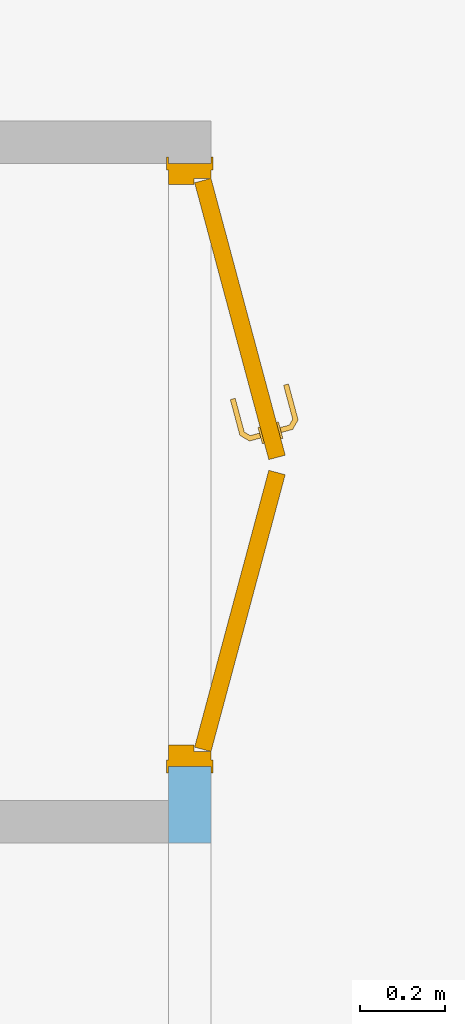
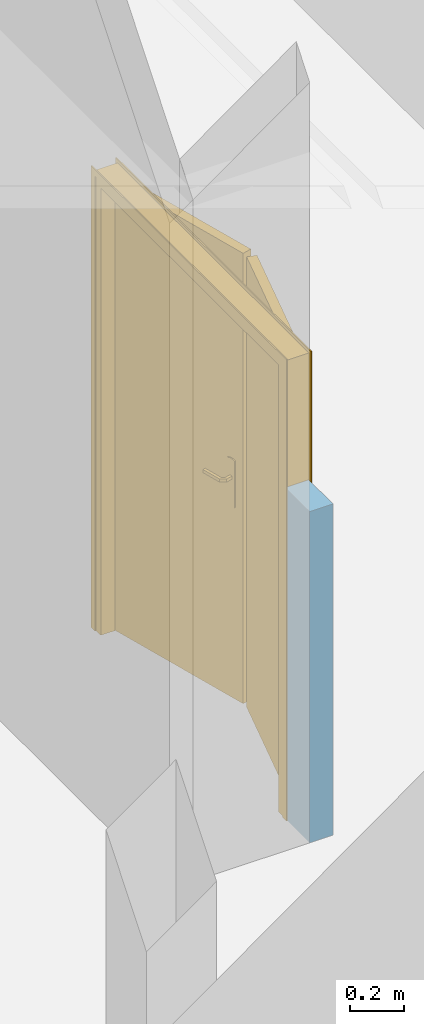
# One storey, part 217 of 240: 1 door, 1 opening, plus 1 element that does not belong to this part.
"""IFC2X3 building model written with IfcOpenShell, lengths in centimetres."""

from ifc_helpers import new_model, entity, si_unit, converted_unit, derived_unit, direction, frame, frame_2d, origin, place, context, subcontext, project, spatial, rectangle, extrude, faceted_brep, source, transform, mapped, material, material_list, layer, layer_set, layer_usage, type_object, type_shapes, element, fill, save


model = new_model("IFC2X3")

# Units and contexts
model_context = context("Model", 3, precision=0.001, world=origin(), true_north=direction((6.12303176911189e-17, 1.0)))
body_context = subcontext(model_context, "Body", "Model", "MODEL_VIEW")
ifc_project = project(units=[si_unit("LENGTHUNIT", "METRE", prefix="CENTI"), si_unit("AREAUNIT", "SQUARE_METRE"), si_unit("VOLUMEUNIT", "CUBIC_METRE"), converted_unit("PLANEANGLEUNIT", "DEGREE", entity("IfcRatioMeasure", 0.0174532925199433), si_unit("PLANEANGLEUNIT", "RADIAN"), dimensions=[0, 0, 0, 0, 0, 0, 0]), si_unit("MASSUNIT", "GRAM", prefix="KILO"), derived_unit("MASSDENSITYUNIT", [(si_unit("MASSUNIT", "GRAM", prefix="KILO"), 1), (si_unit("LENGTHUNIT", "METRE"), -3)]), si_unit("TIMEUNIT", "SECOND"), si_unit("FREQUENCYUNIT", "HERTZ"), si_unit("THERMODYNAMICTEMPERATUREUNIT", "DEGREE_CELSIUS"), derived_unit("THERMALTRANSMITTANCEUNIT", [(si_unit("MASSUNIT", "GRAM", prefix="KILO"), 1), (si_unit("THERMODYNAMICTEMPERATUREUNIT", "KELVIN"), -1), (si_unit("TIMEUNIT", "SECOND"), -3)]), derived_unit("VOLUMETRICFLOWRATEUNIT", [(si_unit("LENGTHUNIT", "METRE"), 3), (si_unit("TIMEUNIT", "SECOND"), -1)]), si_unit("ELECTRICCURRENTUNIT", "AMPERE"), si_unit("ELECTRICVOLTAGEUNIT", "VOLT"), si_unit("POWERUNIT", "WATT"), si_unit("FORCEUNIT", "NEWTON", prefix="KILO"), si_unit("ILLUMINANCEUNIT", "LUX"), si_unit("LUMINOUSFLUXUNIT", "LUMEN"), si_unit("LUMINOUSINTENSITYUNIT", "CANDELA"), derived_unit("USERDEFINED", [(si_unit("MASSUNIT", "GRAM", prefix="KILO"), -1), (si_unit("LENGTHUNIT", "METRE"), -2), (si_unit("TIMEUNIT", "SECOND"), 3), (si_unit("LUMINOUSFLUXUNIT", "LUMEN"), 1)]), derived_unit("LINEARVELOCITYUNIT", [(si_unit("LENGTHUNIT", "METRE"), 1), (si_unit("TIMEUNIT", "SECOND"), -1)]), si_unit("PRESSUREUNIT", "PASCAL"), derived_unit("USERDEFINED", [(si_unit("LENGTHUNIT", "METRE"), -2), (si_unit("MASSUNIT", "GRAM", prefix="KILO"), 1), (si_unit("TIMEUNIT", "SECOND"), -2)])], contexts=[model_context])

# Site, building, storey
site_placement = place(None, frame((-2781.94577612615, 7442.24238424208, 0.0)))
site = spatial("IfcSite", under=ifc_project, at=site_placement, Name="Default", CompositionType="ELEMENT")
building_placement = place(site_placement, origin())
building = spatial("IfcBuilding", under=site, at=building_placement, CompositionType="ELEMENT")
storey_placement = place(building_placement, origin())
storey = spatial("IfcBuildingStorey", under=building, at=storey_placement, Name="N00 - COO", CompositionType="ELEMENT", Elevation=0.0)

# Wall, opening, door
ifc_material_1 = material(Name="01 - Enduit/Plâtre")
ifc_layer_1 = layer(ifc_material_1, 1.3)
ifc_material_2 = material(Name="00 - Isolant")
ifc_layer_2 = layer(ifc_material_2, 7.4)
ifc_layer_3 = layer(ifc_material_1, 1.3)
ifc_layer_set = layer_set([ifc_layer_1, ifc_layer_2, ifc_layer_3], Name="Mur de base:06 - cloisons - Ba13 10cm")
ifc_layer_usage = layer_usage(ifc_layer_set, "AXIS2", "NEGATIVE", 5.0)
wall_type = type_object("IfcWallType", Name="Mur de base:06 - cloisons - Ba13 10cm", PredefinedType="STANDARD", material=ifc_layer_set)
wall_placement = place(building_placement, frame((-5054.49987760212, -1782.07903364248, 0.0), z_axis=(0.0, 0.0, 1.0), x_axis=(0.0, -1.0, 0.0)))
wall = element("IfcWallStandardCase", 1, at=wall_placement, inside=storey, type_object=wall_type, material=ifc_layer_usage, Name="Mur de base:06 - cloisons - Ba13 10cm", ObjectType="Mur de base:06 - cloisons - Ba13 10cm", context=body_context, shape_type="SweptSolid", body=[
    extrude(rectangle(XDim=18.0, YDim=10.0000000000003, at=frame_2d((-0.200000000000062, -1.00000000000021), x_axis=(1.0, 0.0))), frame((8.79999999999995, -1.0, 0.0), z_axis=(0.0, 0.0, 1.0), x_axis=(-1.0, 0.0, 0.0)), (0.0, 0.0, 1.0), 150.0),
])
opening_placement = place(wall_placement, frame((-142.0, -5.0, 0.0)))
opening = element("IfcOpeningElement", 2, at=opening_placement, cuts=wall, Name="Int. Double:PP Placard (1.35m x 2.04m):1", ObjectType="Opening", context=body_context, shape_type="SweptSolid", body=[
    extrude(rectangle(XDim=207.500000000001, YDim=142.0, at=frame_2d((103.750000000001, 71.0000000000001), x_axis=(1.0, 0.0))), frame((0.0, 0.0, 0.0), z_axis=(0.0, 1.0, 0.0), x_axis=(0.0, 0.0, 1.0)), (0.0, 0.0, 1.0), 10.0),
])
ifc_material_3 = material(Name="Bois - Panneau de porte")
ifc_material_4 = material(Name="Finition Peinture - Blanc satiné")
ifc_material_5 = material(Name="Bois - Cadre de porte")
ifc_material_list_1 = material_list([ifc_material_3, ifc_material_4, ifc_material_5])
ifc_material_list_2 = material_list([ifc_material_3, ifc_material_4, ifc_material_5])
door_style = type_object("IfcDoorStyle", Name="PP Placard (1.35m x 2.04m)", ConstructionType="NOTDEFINED", OperationType="DOUBLE_DOOR_SINGLE_SWING", ParameterTakesPrecedence=False, Sizeable=False, material=ifc_material_list_2)
shared_shape = source(origin(), body_context, "Body", "Brep", [
    faceted_brep([(69.7352694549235, -13.6065822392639, 204.0), (69.7352694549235, -13.6065822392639, 0.0), (4.53527618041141, 3.86370330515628, 0.0), (4.5352761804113, 3.86370330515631, 204.0), (68.6999932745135, -17.4702855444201, 204.0), (3.50000000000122, 0.0, 204.0), (3.50000000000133, 0.0, 0.0), (68.6999932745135, -17.4702855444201, 0.0)], [[[0, 1, 2, 3]], [[4, 5, 6, 7]], [[3, 5, 4, 0]], [[2, 6, 5, 3]], [[1, 7, 6, 2]], [[0, 4, 7, 1]]]),
    faceted_brep([(80.2249712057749, -16.1323849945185, 86.6003983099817), (81.1568228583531, -15.8826960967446, 87.0), (81.156822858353, -15.8826960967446, 108.0), (80.2249712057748, -16.1323849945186, 108.399601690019), (79.2249712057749, -16.4003341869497, 108.535898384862), (78.2249712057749, -16.6682833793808, 108.399601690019), (77.2931195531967, -16.9179722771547, 108.0), (77.2931195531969, -16.9179722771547, 87.0), (78.224971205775, -16.6682833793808, 86.6003983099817), (79.224971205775, -16.4003341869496, 86.464101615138), (80.0955616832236, -15.649422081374, 108.399601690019), (81.0274133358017, -15.3997331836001, 108.0), (81.0274133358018, -15.3997331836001, 87.0), (80.0955616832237, -15.649422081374, 86.6003983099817), (79.0955616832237, -15.9173712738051, 86.464101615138), (78.0955616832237, -16.1853204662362, 86.6003983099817), (77.1637100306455, -16.4350093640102, 87.0), (77.1637100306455, -16.4350093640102, 108.0), (78.0955616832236, -16.1853204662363, 108.399601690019), (79.0955616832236, -15.9173712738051, 108.535898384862)], [[[0, 1, 2, 3, 4, 5, 6, 7, 8, 9]], [[10, 11, 12, 13, 14, 15, 16, 17, 18, 19]], [[16, 15, 8, 7]], [[8, 15, 14, 9]], [[14, 13, 0, 9]], [[13, 12, 1, 0]], [[2, 1, 12, 11]], [[11, 10, 3, 2]], [[3, 10, 19, 4]], [[19, 18, 5, 4]], [[18, 17, 6, 5]], [[7, 6, 17, 16]]]),
    faceted_brep([(79.0602855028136, -11.7857187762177, 86.6003983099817), (79.9921371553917, -11.5360298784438, 87.0), (79.9921371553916, -11.5360298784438, 108.0), (79.0602855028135, -11.7857187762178, 108.399601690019), (78.0602855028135, -12.0536679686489, 108.535898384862), (77.0602855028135, -12.32161716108, 108.399601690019), (76.1284338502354, -12.5713060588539, 108.0), (76.1284338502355, -12.5713060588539, 87.0), (77.0602855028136, -12.32161716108, 86.6003983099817), (78.0602855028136, -12.0536679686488, 86.464101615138), (78.9308759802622, -11.3027558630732, 108.399601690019), (79.8627276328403, -11.0530669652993, 108.0), (79.8627276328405, -11.0530669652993, 87.0), (78.9308759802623, -11.3027558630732, 86.6003983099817), (77.9308759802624, -11.5707050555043, 86.464101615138), (76.9308759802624, -11.8386542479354, 86.6003983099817), (75.9990243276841, -12.0883431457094, 87.0), (75.9990243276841, -12.0883431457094, 108.0), (76.9308759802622, -11.8386542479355, 108.399601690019), (77.9308759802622, -11.5707050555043, 108.535898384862)], [[[0, 1, 2, 3, 4, 5, 6, 7, 8, 9]], [[10, 11, 12, 13, 14, 15, 16, 17, 18, 19]], [[11, 10, 3, 2]], [[3, 10, 19, 4]], [[19, 18, 5, 4]], [[18, 17, 6, 5]], [[7, 6, 17, 16]], [[16, 15, 8, 7]], [[8, 15, 14, 9]], [[14, 13, 0, 9]], [[13, 12, 1, 0]], [[2, 1, 12, 11]]]),
    faceted_brep([(79.0293423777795, -16.4527527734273, 100.778044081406), (79.4206000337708, -16.3479156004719, 100.778044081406), (79.804526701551, -16.2450427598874, 100.699999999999), (79.8045267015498, -16.2450427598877, 99.3000000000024), (79.42060003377, -16.3479156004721, 99.2219559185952), (79.0293423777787, -16.4527527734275, 99.221955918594), (78.6454157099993, -16.5556256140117, 99.2999999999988), (78.6454157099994, -16.5556256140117, 100.7), (79.3610749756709, -19.2265023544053, 100.7), (79.702390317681, -18.9646018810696, 100.778044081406), (81.6679691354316, -20.0994293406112, 100.778044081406), (81.7251961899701, -19.6647467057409, 100.778044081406), (80.0502229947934, -18.6977004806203, 100.778044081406), (80.3915383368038, -18.4358000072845, 100.7), (80.3915383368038, -18.435800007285, 99.3000000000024), (80.0502229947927, -18.6977004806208, 99.2219559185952), (81.72519618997, -19.6647467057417, 99.2219559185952), (81.6679691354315, -20.0994293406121, 99.221955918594), (79.7023903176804, -18.9646018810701, 99.221955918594), (79.3610749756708, -19.2265023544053, 99.2999999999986), (81.6118143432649, -20.5259673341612, 100.7), (81.781350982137, -19.2382087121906, 100.7), (81.7813509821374, -19.238208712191, 99.3000000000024), (81.6118143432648, -20.5259673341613, 99.2999999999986), (90.0773264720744, -18.2576401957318, 99.2999999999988), (89.9744536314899, -17.8737135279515, 99.221955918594), (89.8696164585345, -17.4824558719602, 99.2219559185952), (89.7667436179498, -17.0985292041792, 99.3000000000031), (89.7667436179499, -17.0985292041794, 100.7), (89.8696164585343, -17.4824558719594, 100.778044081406), (89.9744536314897, -17.8737135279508, 100.778044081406), (90.0773264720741, -18.2576401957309, 100.699999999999), (85.4688032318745, -19.4924902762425, 100.7), (85.8498249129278, -18.7692301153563, 100.78786867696), (85.7740473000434, -18.168368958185, 100.7), (85.7740473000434, -18.1683689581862, 99.3000000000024), (85.8498248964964, -18.7692301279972, 99.2121313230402), (85.4688035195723, -19.4924901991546, 99.2999999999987)], [[[0, 1, 2, 3, 4, 5, 6, 7]], [[8, 9, 0, 7]], [[9, 10, 11, 12, 1, 0]], [[12, 13, 2, 1]], [[3, 2, 13, 14]], [[14, 15, 4, 3]], [[15, 16, 17, 18, 5, 4]], [[18, 19, 6, 5]], [[7, 6, 19, 8]], [[20, 10, 9, 8]], [[11, 21, 13, 12]], [[14, 13, 21, 22]], [[22, 16, 15, 14]], [[17, 23, 19, 18]], [[8, 19, 23, 20]], [[24, 25, 26, 27, 28, 29, 30, 31]], [[32, 30, 33]], [[31, 30, 32]], [[10, 20, 32]], [[33, 34, 11]], [[21, 11, 34]], [[34, 29, 28]], [[30, 29, 33]], [[29, 34, 33]], [[10, 32, 33]], [[10, 33, 11]], [[22, 21, 34, 28, 27, 35]], [[35, 26, 36]], [[37, 36, 25]], [[22, 35, 16]], [[35, 27, 26]], [[24, 37, 25]], [[23, 17, 37]], [[37, 17, 36]], [[17, 16, 36]], [[16, 35, 36]], [[25, 36, 26]], [[20, 23, 37, 24, 31, 32]]]),
    faceted_brep([(77.7352471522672, -11.6231236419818, 100.778044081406), (77.351320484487, -11.7259964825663, 100.7), (77.3513204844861, -11.7259964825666, 99.2999999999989), (77.7352471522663, -11.6231236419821, 99.221955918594), (78.1265048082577, -11.5182864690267, 99.2219559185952), (78.5104314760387, -11.415413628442, 99.3000000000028), (78.5104314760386, -11.415413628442, 100.7), (78.1265048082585, -11.5182864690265, 100.778044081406), (77.928471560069, -9.24350965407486, 99.3000000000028), (77.928471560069, -9.24350965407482, 100.7), (77.501933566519, -9.18735486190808, 100.778044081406), (78.4787031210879, -7.4955403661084, 100.778044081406), (78.2118017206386, -7.14770768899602, 100.778044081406), (77.0672509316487, -9.13012780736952, 100.778044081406), (76.6407129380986, -9.07397301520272, 100.7), (76.6407129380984, -9.07397301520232, 99.2999999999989), (77.0672509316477, -9.13012780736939, 99.221955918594), (78.211801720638, -7.14770768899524, 99.221955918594), (78.4787031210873, -7.49554036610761, 99.2219559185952), (77.501933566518, -9.18735486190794, 99.2219559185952), (78.7406035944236, -7.8368557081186, 99.3000000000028), (78.7406035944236, -7.83685570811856, 100.7), (77.9499012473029, -6.80639234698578, 100.7), (77.9499012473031, -6.80639234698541, 99.2999999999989), (86.7153357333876, -5.70003267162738, 99.3000000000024), (86.6124628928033, -5.31610600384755, 99.2219559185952), (86.5076257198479, -4.92484834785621, 99.221955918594), (86.4047528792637, -4.54092168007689, 99.2999999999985), (86.4047528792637, -4.540921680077, 100.7), (86.5076257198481, -4.92484834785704, 100.778044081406), (86.6124628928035, -5.31610600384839, 100.778044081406), (86.715335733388, -5.70003267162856, 100.7), (82.7279685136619, -6.76844449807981, 99.3000000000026), (82.7279696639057, -6.76844418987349, 100.7), (82.4931644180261, -6.21019435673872, 100.78786867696), (81.8068901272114, -5.77291529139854, 100.7), (81.8068899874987, -5.77291532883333, 99.2999999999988), (82.493164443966, -6.21019435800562, 99.2121313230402)], [[[0, 1, 2, 3, 4, 5, 6, 7]], [[6, 5, 8, 9]], [[9, 10, 7, 6]], [[10, 11, 12, 13, 0, 7]], [[13, 14, 1, 0]], [[2, 1, 14, 15]], [[15, 16, 3, 2]], [[16, 17, 18, 19, 4, 3]], [[19, 8, 5, 4]], [[9, 8, 20, 21]], [[21, 11, 10, 9]], [[12, 22, 14, 13]], [[15, 14, 22, 23]], [[23, 17, 16, 15]], [[18, 20, 8, 19]], [[24, 25, 26, 27, 28, 29, 30, 31]], [[21, 20, 32, 24, 31, 33]], [[33, 30, 34]], [[35, 34, 29]], [[21, 33, 11]], [[33, 31, 30]], [[28, 35, 29]], [[22, 12, 35]], [[35, 12, 34]], [[12, 11, 34]], [[11, 33, 34]], [[29, 34, 30]], [[22, 35, 28, 27, 36, 23]], [[36, 26, 37]], [[27, 26, 36]], [[17, 23, 36]], [[37, 32, 18]], [[20, 18, 32]], [[32, 25, 24]], [[26, 25, 37]], [[25, 32, 37]], [[17, 36, 37]], [[17, 37, 18]]]),
    faceted_brep([(72.2647305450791, -13.6065822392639, 204.0), (137.464723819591, 3.86370330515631, 204.0), (137.464723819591, 3.86370330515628, 0.0), (72.2647305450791, -13.6065822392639, 0.0), (73.3000067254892, -17.4702855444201, 204.0), (73.3000067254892, -17.4702855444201, 0.0), (138.500000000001, 0.0, 0.0), (138.500000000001, 0.0, 204.0)], [[[0, 1, 2, 3]], [[4, 5, 6, 7]], [[1, 0, 4, 7]], [[2, 1, 7, 6]], [[3, 2, 6, 5]], [[0, 3, 5, 4]]]),
    faceted_brep([(0.0, 0.0, 0.0), (0.0, 10.0, 0.0), (5.0, 10.0, 0.0), (5.0, 4.0, 0.0), (3.50000000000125, 4.0, 0.0), (3.50000000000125, 0.0, 0.0), (0.0, 0.0, 207.500000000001), (0.0, 10.0, 207.500000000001), (142.0, 10.0, 207.500000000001), (142.0, 10.0, 0.0), (137.0, 10.0, 0.0), (137.0, 10.0, 202.5), (5.0, 10.0, 202.5), (5.0, 4.0, 202.5), (137.0, 4.0, 202.5), (137.0, 4.0, 0.0), (138.499999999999, 4.0, 0.0), (138.499999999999, 4.0, 204.0), (3.50000000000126, 4.0, 204.0), (3.50000000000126, 0.0, 204.0), (138.499999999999, 0.0, 204.0), (138.499999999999, 0.0, 0.0), (142.0, 0.0, 0.0), (142.0, 0.0, 207.500000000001)], [[[0, 1, 2, 3, 4, 5]], [[1, 0, 6, 7]], [[2, 1, 7, 8, 9, 10, 11, 12]], [[3, 2, 12, 13]], [[4, 3, 13, 14, 15, 16, 17, 18]], [[5, 4, 18, 19]], [[0, 5, 19, 20, 21, 22, 23, 6]], [[8, 23, 22, 9]], [[22, 21, 16, 15, 10, 9]], [[14, 11, 10, 15]], [[20, 17, 16, 21]], [[7, 6, 23, 8]], [[13, 12, 11, 14]], [[19, 18, 17, 20]]]),
    faceted_brep([(1.49999999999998, 10.0, 0.0), (-1.50000000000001, 10.0, 0.0), (-1.50000000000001, 10.5000000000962, 0.0), (1.49999999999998, 10.5000000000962, 0.0), (1.49999999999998, 10.0, 206.0), (140.5, 10.0, 206.0), (140.5, 10.0, 0.0), (143.5, 10.0, 0.0), (143.5, 10.0, 209.0), (-1.50000000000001, 10.0, 209.0), (-1.50000000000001, 10.5000000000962, 209.0), (143.5, 10.5000000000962, 209.0), (143.5, 10.5000000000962, 0.0), (140.5, 10.5000000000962, 0.0), (140.5, 10.5000000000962, 206.0), (1.5, 10.5000000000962, 206.0)], [[[0, 1, 2, 3]], [[1, 0, 4, 5, 6, 7, 8, 9]], [[2, 1, 9, 10]], [[3, 2, 10, 11, 12, 13, 14, 15]], [[0, 3, 15, 4]], [[5, 14, 13, 6]], [[6, 13, 12, 7]], [[11, 8, 7, 12]], [[10, 9, 8, 11]], [[4, 15, 14, 5]]]),
    faceted_brep([(-1.50000000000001, -0.500000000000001, 0.0), (1.49999999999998, -0.500000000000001, 0.0), (1.49999999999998, -0.500000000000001, 206.0), (140.5, -0.500000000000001, 206.0), (140.5, -0.500000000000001, 0.0), (143.5, -0.500000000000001, 0.0), (143.5, -0.500000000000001, 209.0), (-1.50000000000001, -0.500000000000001, 209.0), (-1.50000000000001, 0.0, 0.0), (-1.50000000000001, 0.0, 209.0), (1.49999999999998, 0.0, 0.0), (143.5, 0.0, 209.0), (143.5, 0.0, 0.0), (140.5, 0.0, 0.0), (140.5, 0.0, 206.0), (1.5, 0.0, 206.0)], [[[0, 1, 2, 3, 4, 5, 6, 7]], [[8, 0, 7, 9]], [[10, 8, 9, 11, 12, 13, 14, 15]], [[1, 10, 15, 2]], [[3, 14, 13, 4]], [[11, 6, 5, 12]], [[9, 7, 6, 11]], [[2, 15, 14, 3]], [[4, 13, 12, 5]], [[1, 0, 8, 10]]]),
])
type_shapes(door_style, [shared_shape])
door_placement = place(opening_placement, frame((142.0, 10.0, 0.0), z_axis=(0.0, 0.0, 1.0), x_axis=(-1.0, 0.0, 0.0)))
door = element("IfcDoor", 3, at=door_placement, inside=storey, type_object=door_style, material=ifc_material_list_1, Name="Int. Double:PP Placard (1.35m x 2.04m)", ObjectType="Int. Double:PP Placard (1.35m x 2.04m)", OverallHeight=207.500000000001, OverallWidth=142.0, context=body_context, shape_type="MappedRepresentation", body=[
    mapped(shared_shape, transform((0.0, 0.0, 0.0), scale=1.0)),
])
fill(opening, door)

save(model, "model.ifc")
